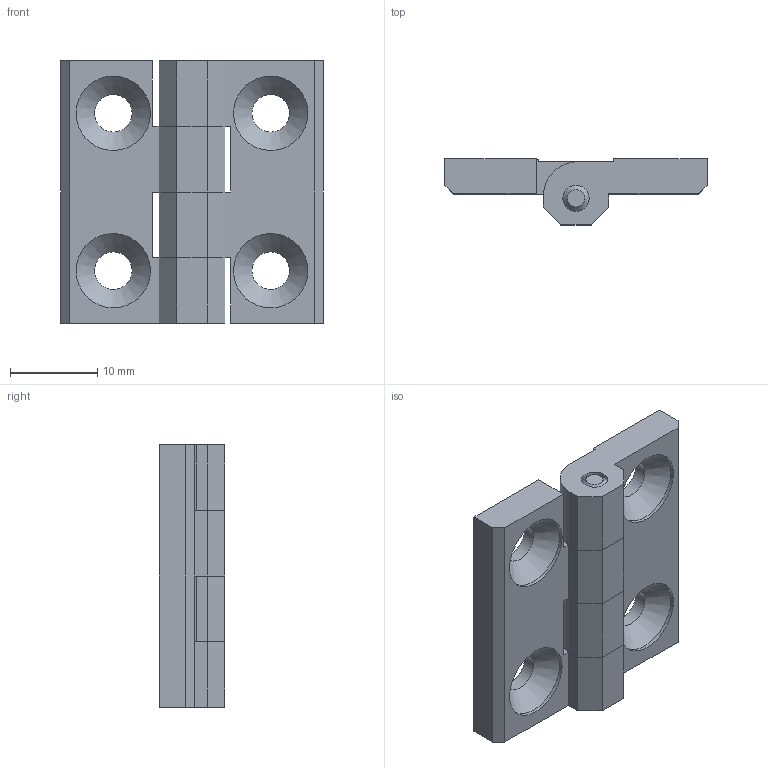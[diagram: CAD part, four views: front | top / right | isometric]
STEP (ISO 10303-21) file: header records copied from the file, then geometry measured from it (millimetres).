
FILE_DESCRIPTION( ( 'STEP AP203' ), '1' );
FILE_NAME( 'C:/Temp/Ganter_Step_05_03_2020/data/3_3/gn_237/gn_237_al/Aluminum-Hinge GN 237-AL-30-30-A-EL (0).stp', '2020-03-12T11:57:02', ( 'License CC BY-ND 4.0' ), ( 'CADENAS' ), ' ', 'PARTsolutions', ' ' );
FILE_SCHEMA( ( 'CONFIG_CONTROL_DESIGN' ) );
Length unit declared in the file: millimetre
Products named in the file (3): Aluminum-Hinge GN 237-AL-30-30-A-EL (0); _Aluminum-Hinge GN 237-AL-30-30-A-EL (0)_1; _Aluminum-Hinge GN 237-AL-30-30-A-EL (0)_2
Assembly tree (2 placements, depth 2):
  Aluminum-Hinge GN 237-AL-30-30-A-EL (0)
    _Aluminum-Hinge GN 237-AL-30-30-A-EL (0)_1
    _Aluminum-Hinge GN 237-AL-30-30-A-EL (0)_2
Bounding box: 30 x 7.5 x 30 mm (x, y, z)
Volume: 3512.1 mm3; surface area: 3170.4 mm2
Topology: 2 solids, 2 shells, 75 faces, 200 edges, 131 vertices
Faces by surface type: plane 52, cylinder 17, cone 6
Full cylindrical faces by diameter (mm): 3 x5, 4.3 x4, 8.5 x4
Entity records: 2328 total; most frequent: CARTESIAN_POINT 384, DIRECTION 370, ORIENTED_EDGE 356, EDGE_CURVE 178, LINE 142, VECTOR 142, VERTEX_POINT 128, AXIS2_PLACEMENT_3D 114
